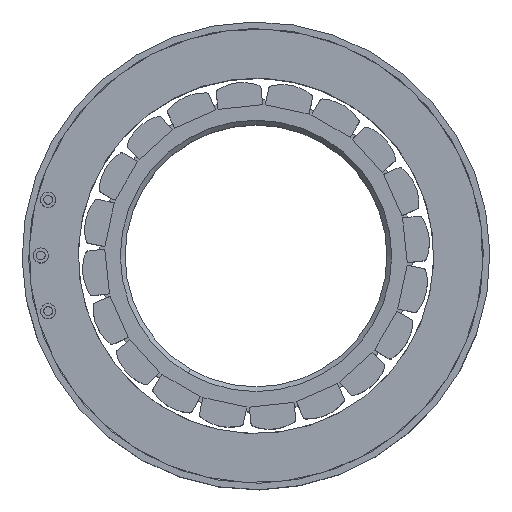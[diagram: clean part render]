
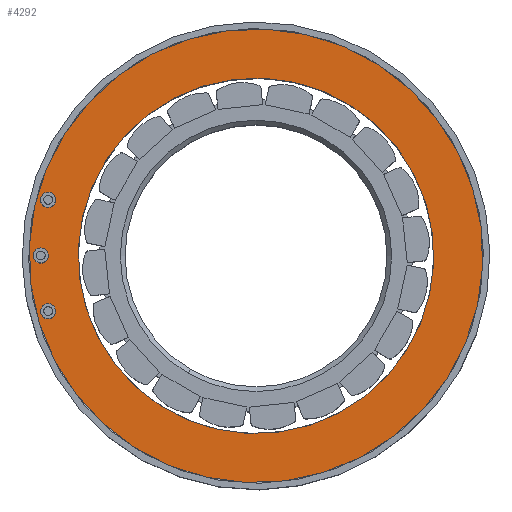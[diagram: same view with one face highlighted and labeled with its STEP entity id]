
A CAD part, top view. The second image highlights one B-rep face of the part: STEP entity #4292.
In plain terms, the highlighted planar face has unit normal (0, 0, 1).
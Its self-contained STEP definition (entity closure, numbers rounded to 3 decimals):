
#395 = CARTESIAN_POINT ( 'NONE',  ( 0., 0., 17.2 ) ) ;
#656 = DIRECTION ( 'NONE',  ( 0., 0., 1. ) ) ;
#803 = CARTESIAN_POINT ( 'NONE',  ( 0., 0., 17.2 ) ) ;
#881 = ORIENTED_EDGE ( 'NONE', *, *, #1589, .T. ) ;
#1100 = VERTEX_POINT ( 'NONE', #1915 ) ;
#1500 = FACE_OUTER_BOUND ( 'NONE', #3902, .T. ) ;
#1530 = DIRECTION ( 'NONE',  ( -0.539, -0.842, 0. ) ) ;
#1589 = EDGE_CURVE ( 'NONE', #4760, #4620, #2874, .T. ) ;
#1736 = EDGE_CURVE ( 'NONE', #4620, #4760, #4905, .T. ) ;
#1809 = DIRECTION ( 'NONE',  ( -0.539, -0.842, 0. ) ) ;
#1915 = CARTESIAN_POINT ( 'NONE',  ( -10.248, -15.999, 17.2 ) ) ;
#2015 = DIRECTION ( 'NONE',  ( -0.539, -0.842, 0. ) ) ;
#2120 = EDGE_LOOP ( 'NONE', ( #8395, #2677 ) ) ;
#2374 = AXIS2_PLACEMENT_3D ( 'NONE', #4521, #7276, #5786 ) ;
#2677 = ORIENTED_EDGE ( 'NONE', *, *, #7653, .F. ) ;
#2716 = CARTESIAN_POINT ( 'NONE',  ( 0., 0., 17.2 ) ) ;
#2757 = CARTESIAN_POINT ( 'NONE',  ( 10.248, 15.999, 17.2 ) ) ;
#2874 = CIRCLE ( 'NONE', #5478, 24.25 ) ;
#2960 = FACE_BOUND ( 'NONE', #2120, .T. ) ;
#3361 = CIRCLE ( 'NONE', #4090, 19. ) ;
#3902 = EDGE_LOOP ( 'NONE', ( #6881, #881 ) ) ;
#4090 = AXIS2_PLACEMENT_3D ( 'NONE', #2716, #7603, #8190 ) ;
#4292 = ADVANCED_FACE ( 'NONE', ( #1500, #2960 ), #5082, .T. ) ;
#4323 = AXIS2_PLACEMENT_3D ( 'NONE', #8948, #656, #2015 ) ;
#4521 = CARTESIAN_POINT ( 'NONE',  ( 0., 0., 17.2 ) ) ;
#4620 = VERTEX_POINT ( 'NONE', #7156 ) ;
#4760 = VERTEX_POINT ( 'NONE', #7283 ) ;
#4905 = CIRCLE ( 'NONE', #4323, 24.25 ) ;
#5082 = PLANE ( 'NONE',  #7108 ) ;
#5478 = AXIS2_PLACEMENT_3D ( 'NONE', #803, #6385, #1530 ) ;
#5786 = DIRECTION ( 'NONE',  ( -0.539, -0.842, 0. ) ) ;
#5939 = DIRECTION ( 'NONE',  ( 0., 0., 1. ) ) ;
#6385 = DIRECTION ( 'NONE',  ( 0., 0., 1. ) ) ;
#6881 = ORIENTED_EDGE ( 'NONE', *, *, #1736, .T. ) ;
#7108 = AXIS2_PLACEMENT_3D ( 'NONE', #395, #5939, #1809 ) ;
#7156 = CARTESIAN_POINT ( 'NONE',  ( 13.08, 20.42, 17.2 ) ) ;
#7276 = DIRECTION ( 'NONE',  ( 0., 0., 1. ) ) ;
#7283 = CARTESIAN_POINT ( 'NONE',  ( -13.08, -20.42, 17.2 ) ) ;
#7377 = EDGE_CURVE ( 'NONE', #7485, #1100, #3361, .T. ) ;
#7485 = VERTEX_POINT ( 'NONE', #2757 ) ;
#7603 = DIRECTION ( 'NONE',  ( 0., 0., 1. ) ) ;
#7653 = EDGE_CURVE ( 'NONE', #1100, #7485, #8014, .T. ) ;
#8014 = CIRCLE ( 'NONE', #2374, 19. ) ;
#8190 = DIRECTION ( 'NONE',  ( -0.539, -0.842, 0. ) ) ;
#8395 = ORIENTED_EDGE ( 'NONE', *, *, #7377, .F. ) ;
#8948 = CARTESIAN_POINT ( 'NONE',  ( 0., 0., 17.2 ) ) ;
